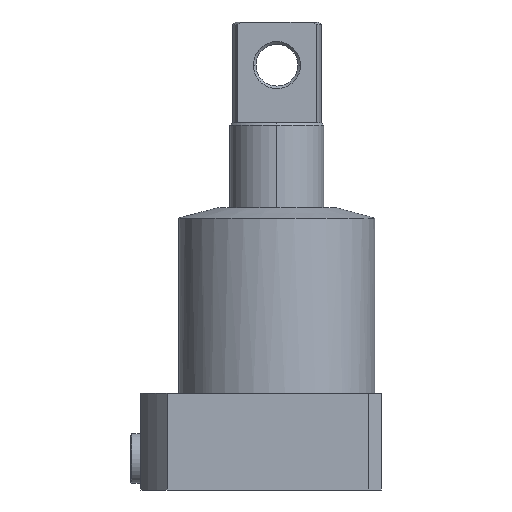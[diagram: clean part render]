
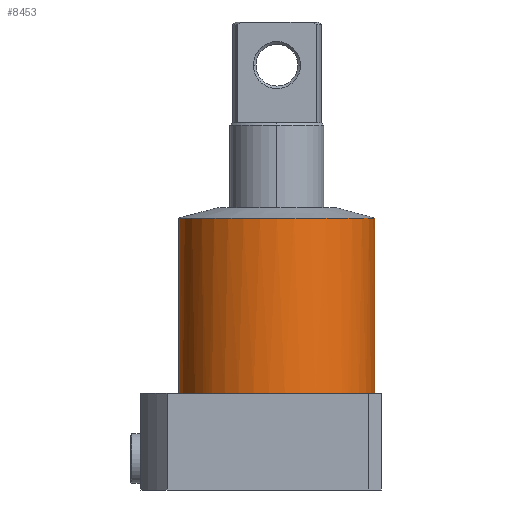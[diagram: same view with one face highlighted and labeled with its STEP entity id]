
A CAD part, front view. The second image highlights one B-rep face of the part: STEP entity #8453.
In plain terms, the highlighted cylindrical face has radius 37.5 mm (diameter 75 mm), a partial arc.
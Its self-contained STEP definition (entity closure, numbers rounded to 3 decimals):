
#238 = VERTEX_POINT ( 'NONE', #7576 ) ;
#339 = AXIS2_PLACEMENT_3D ( 'NONE', #13688, #6199, #14937 ) ;
#464 = AXIS2_PLACEMENT_3D ( 'NONE', #10585, #3181, #11839 ) ;
#465 = ORIENTED_EDGE ( 'NONE', *, *, #12625, .F. ) ;
#538 = FACE_OUTER_BOUND ( 'NONE', #7724, .T. ) ;
#1464 = DIRECTION ( 'NONE',  ( 0., 0., -1. ) ) ;
#1724 = DIRECTION ( 'NONE',  ( 0., 0., -1. ) ) ;
#2070 = CARTESIAN_POINT ( 'NONE',  ( -37.5, 0., 103.981 ) ) ;
#2738 = CARTESIAN_POINT ( 'NONE',  ( -24.801, -28.128, 37. ) ) ;
#2769 = VERTEX_POINT ( 'NONE', #8374 ) ;
#2846 = AXIS2_PLACEMENT_3D ( 'NONE', #11552, #4127, #12820 ) ;
#2934 = CARTESIAN_POINT ( 'NONE',  ( 0., 0., 37. ) ) ;
#3075 = CIRCLE ( 'NONE', #339, 37.5 ) ;
#3181 = DIRECTION ( 'NONE',  ( 0., 0., -1. ) ) ;
#3318 = ORIENTED_EDGE ( 'NONE', *, *, #9074, .F. ) ;
#3883 = CARTESIAN_POINT ( 'NONE',  ( 37.5, 0., 37. ) ) ;
#4050 = EDGE_CURVE ( 'NONE', #14708, #2769, #6753, .T. ) ;
#4127 = DIRECTION ( 'NONE',  ( 0., 0., 1. ) ) ;
#4157 = DIRECTION ( 'NONE',  ( -1., 0., 0. ) ) ;
#4204 = DIRECTION ( 'NONE',  ( 0., 0., -1. ) ) ;
#4332 = CARTESIAN_POINT ( 'NONE',  ( 37.5, 0., 103.981 ) ) ;
#4463 = VERTEX_POINT ( 'NONE', #3883 ) ;
#4595 = LINE ( 'NONE', #10790, #14161 ) ;
#4680 = CARTESIAN_POINT ( 'NONE',  ( 28.128, -24.801, 37. ) ) ;
#4743 = EDGE_CURVE ( 'NONE', #6726, #4463, #4595, .T. ) ;
#5313 = AXIS2_PLACEMENT_3D ( 'NONE', #12930, #5480, #14202 ) ;
#5480 = DIRECTION ( 'NONE',  ( 0., 0., -1. ) ) ;
#5492 = DIRECTION ( 'NONE',  ( -1., 0., 0. ) ) ;
#5570 = ORIENTED_EDGE ( 'NONE', *, *, #4050, .T. ) ;
#5869 = CIRCLE ( 'NONE', #5313, 37.5 ) ;
#6151 = CIRCLE ( 'NONE', #12798, 37.5 ) ;
#6199 = DIRECTION ( 'NONE',  ( 0., 0., -1. ) ) ;
#6528 = EDGE_CURVE ( 'NONE', #7946, #238, #3075, .T. ) ;
#6704 = CYLINDRICAL_SURFACE ( 'NONE', #12704, 37.5 ) ;
#6726 = VERTEX_POINT ( 'NONE', #4332 ) ;
#6753 = LINE ( 'NONE', #10389, #9273 ) ;
#6934 = ORIENTED_EDGE ( 'NONE', *, *, #9228, .F. ) ;
#7003 = EDGE_CURVE ( 'NONE', #238, #2769, #6151, .T. ) ;
#7576 = CARTESIAN_POINT ( 'NONE',  ( -28.128, -24.801, 37. ) ) ;
#7724 = EDGE_LOOP ( 'NONE', ( #12746, #7928, #5570, #12966, #13422, #3318, #6934, #465 ) ) ;
#7928 = ORIENTED_EDGE ( 'NONE', *, *, #10783, .F. ) ;
#7946 = VERTEX_POINT ( 'NONE', #2738 ) ;
#8144 = VERTEX_POINT ( 'NONE', #8388 ) ;
#8374 = CARTESIAN_POINT ( 'NONE',  ( -37.5, 0., 37. ) ) ;
#8388 = CARTESIAN_POINT ( 'NONE',  ( 24.801, -28.128, 37. ) ) ;
#8453 = ADVANCED_FACE ( 'NONE', ( #538 ), #6704, .T. ) ;
#8874 = CARTESIAN_POINT ( 'NONE',  ( 0., 0., 37. ) ) ;
#9040 = AXIS2_PLACEMENT_3D ( 'NONE', #8874, #1464, #10132 ) ;
#9074 = EDGE_CURVE ( 'NONE', #8144, #7946, #12367, .T. ) ;
#9228 = EDGE_CURVE ( 'NONE', #15534, #8144, #11202, .T. ) ;
#9273 = VECTOR ( 'NONE', #4204, 1000. ) ;
#10132 = DIRECTION ( 'NONE',  ( -1., 0., 0. ) ) ;
#10389 = CARTESIAN_POINT ( 'NONE',  ( -37.5, 0., 108. ) ) ;
#10585 = CARTESIAN_POINT ( 'NONE',  ( 0., 0., 37. ) ) ;
#10783 = EDGE_CURVE ( 'NONE', #14708, #6726, #14281, .T. ) ;
#10790 = CARTESIAN_POINT ( 'NONE',  ( 37.5, 0., 108. ) ) ;
#11202 = CIRCLE ( 'NONE', #464, 37.5 ) ;
#11552 = CARTESIAN_POINT ( 'NONE',  ( 0., 0., 103.981 ) ) ;
#11585 = DIRECTION ( 'NONE',  ( 0., 0., -1. ) ) ;
#11839 = DIRECTION ( 'NONE',  ( -1., 0., 0. ) ) ;
#12367 = CIRCLE ( 'NONE', #9040, 37.5 ) ;
#12625 = EDGE_CURVE ( 'NONE', #4463, #15534, #5869, .T. ) ;
#12704 = AXIS2_PLACEMENT_3D ( 'NONE', #15462, #1724, #5492 ) ;
#12746 = ORIENTED_EDGE ( 'NONE', *, *, #4743, .F. ) ;
#12798 = AXIS2_PLACEMENT_3D ( 'NONE', #2934, #11585, #4157 ) ;
#12820 = DIRECTION ( 'NONE',  ( -1., 0., 0. ) ) ;
#12930 = CARTESIAN_POINT ( 'NONE',  ( 0., 0., 37. ) ) ;
#12966 = ORIENTED_EDGE ( 'NONE', *, *, #7003, .F. ) ;
#13422 = ORIENTED_EDGE ( 'NONE', *, *, #6528, .F. ) ;
#13688 = CARTESIAN_POINT ( 'NONE',  ( 0., 0., 37. ) ) ;
#14161 = VECTOR ( 'NONE', #14468, 1000. ) ;
#14202 = DIRECTION ( 'NONE',  ( -1., 0., 0. ) ) ;
#14281 = CIRCLE ( 'NONE', #2846, 37.5 ) ;
#14468 = DIRECTION ( 'NONE',  ( 0., 0., -1. ) ) ;
#14708 = VERTEX_POINT ( 'NONE', #2070 ) ;
#14937 = DIRECTION ( 'NONE',  ( -1., 0., 0. ) ) ;
#15462 = CARTESIAN_POINT ( 'NONE',  ( 0., 0., 108. ) ) ;
#15534 = VERTEX_POINT ( 'NONE', #4680 ) ;
